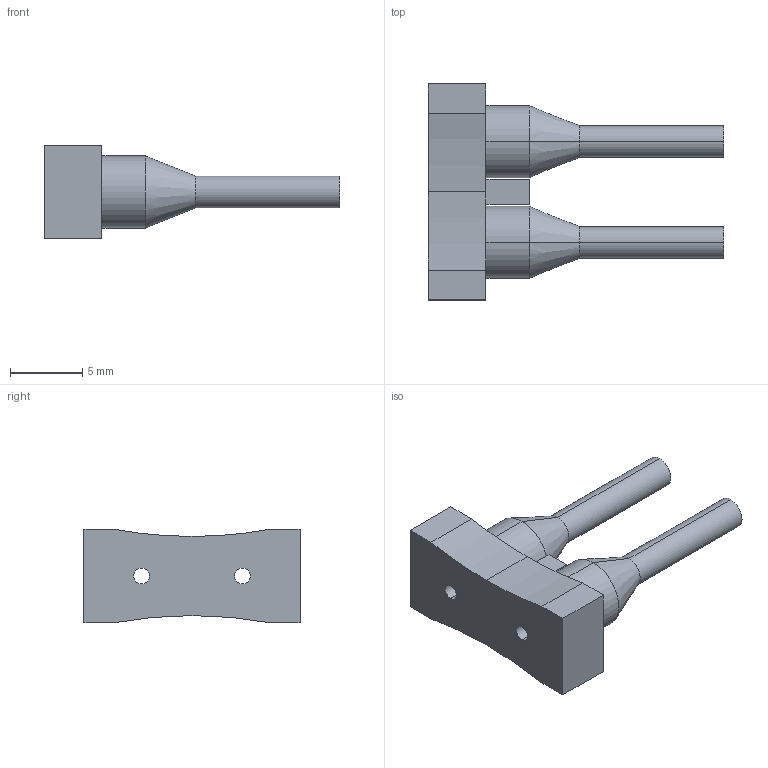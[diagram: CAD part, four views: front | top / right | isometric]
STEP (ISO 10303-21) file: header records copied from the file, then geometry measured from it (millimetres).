
FILE_DESCRIPTION (( 'STEP AP203' ), '1' );
FILE_NAME ('FX-AT4.STEP', '2005-09-08T02:51:51', ( '' ), ( '' ), 'SwSTEP 2.0', 'SolidWorks 2004073', '' );
FILE_SCHEMA (( 'CONFIG_CONTROL_DESIGN' ));
Length unit declared in the file: millimetre
Products named in the file (1): FX-AT4
Bounding box: 20.5 x 15 x 6.5 mm (x, y, z)
Volume: 600.8 mm3; surface area: 799.1 mm2
Topology: 1 solids, 1 shells, 34 faces, 79 edges, 50 vertices
Faces by surface type: cylinder 15, plane 15, cone 4
Entity records: 1054 total; most frequent: DIRECTION 179, CARTESIAN_POINT 164, ORIENTED_EDGE 158, EDGE_CURVE 79, AXIS2_PLACEMENT_3D 65, VERTEX_POINT 50, LINE 49, VECTOR 49
